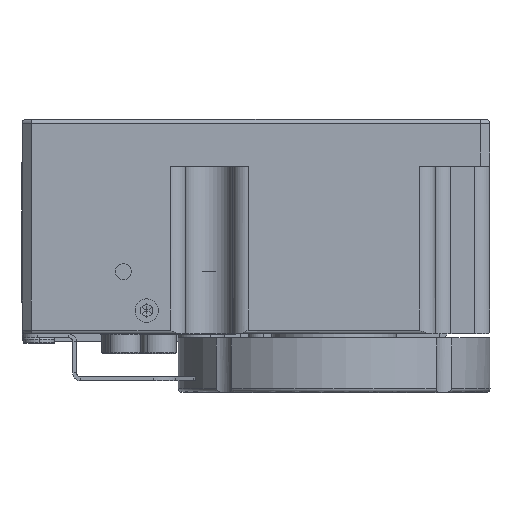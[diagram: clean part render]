
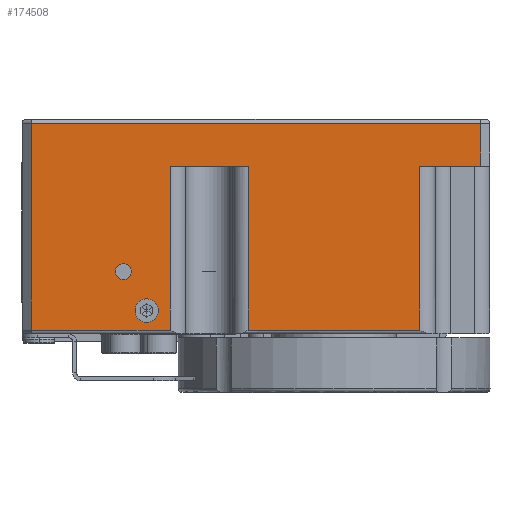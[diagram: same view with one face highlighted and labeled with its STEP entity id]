
A CAD part, left-side view. The second image highlights one B-rep face of the part: STEP entity #174508.
In plain terms, the highlighted planar face has unit normal (-1, 0, 0).
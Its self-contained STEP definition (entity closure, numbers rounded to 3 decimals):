
#3399 = VERTEX_POINT ( 'NONE', #144927 ) ;
#4964 = AXIS2_PLACEMENT_3D ( 'NONE', #27901, #54296, #39329 ) ;
#8734 = CARTESIAN_POINT ( 'NONE',  ( 36.077, -107.76, -40.056 ) ) ;
#8786 = VERTEX_POINT ( 'NONE', #117116 ) ;
#8812 = DIRECTION ( 'NONE',  ( 0., 0., 1. ) ) ;
#9082 = AXIS2_PLACEMENT_3D ( 'NONE', #65465, #107786, #94520 ) ;
#14168 = ORIENTED_EDGE ( 'NONE', *, *, #114349, .T. ) ;
#14399 = VECTOR ( 'NONE', #99959, 1000. ) ;
#17383 = ORIENTED_EDGE ( 'NONE', *, *, #58990, .F. ) ;
#17517 = CARTESIAN_POINT ( 'NONE',  ( 36.077, -106.56, -66.556 ) ) ;
#19493 = CARTESIAN_POINT ( 'NONE',  ( 36.077, -66.76, -66.556 ) ) ;
#19783 = DIRECTION ( 'NONE',  ( 0., 0., 1. ) ) ;
#23293 = ORIENTED_EDGE ( 'NONE', *, *, #30588, .F. ) ;
#23345 = CARTESIAN_POINT ( 'NONE',  ( 36.077, -98.76, -66.556 ) ) ;
#24260 = CARTESIAN_POINT ( 'NONE',  ( 36.077, -68.76, -45.556 ) ) ;
#24504 = VECTOR ( 'NONE', #37006, 1000. ) ;
#24661 = LINE ( 'NONE', #105684, #24504 ) ;
#24839 = CARTESIAN_POINT ( 'NONE',  ( 36.077, -48.96, -66.556 ) ) ;
#25301 = ORIENTED_EDGE ( 'NONE', *, *, #128068, .F. ) ;
#27020 = ORIENTED_EDGE ( 'NONE', *, *, #42833, .T. ) ;
#27145 = VERTEX_POINT ( 'NONE', #19493 ) ;
#27901 = CARTESIAN_POINT ( 'NONE',  ( 36.077, -63.76, -64.056 ) ) ;
#30588 = EDGE_CURVE ( 'NONE', #129301, #104111, #51982, .T. ) ;
#31824 = ORIENTED_EDGE ( 'NONE', *, *, #74678, .F. ) ;
#32621 = CARTESIAN_POINT ( 'NONE',  ( 36.077, -76.76, -45.556 ) ) ;
#33995 = CIRCLE ( 'NONE', #67600, 1.025 ) ;
#37006 = DIRECTION ( 'NONE',  ( 0., 0., -1. ) ) ;
#38038 = EDGE_CURVE ( 'NONE', #138267, #134312, #145015, .T. ) ;
#39329 = DIRECTION ( 'NONE',  ( 0., 0., 1. ) ) ;
#39699 = DIRECTION ( 'NONE',  ( 0., 0., 1. ) ) ;
#39964 = LINE ( 'NONE', #52317, #154958 ) ;
#42445 = EDGE_CURVE ( 'NONE', #148067, #126763, #92972, .T. ) ;
#42833 = EDGE_CURVE ( 'NONE', #50475, #98329, #39964, .T. ) ;
#43990 = CARTESIAN_POINT ( 'NONE',  ( 36.077, -60.76, -60.081 ) ) ;
#44041 = ORIENTED_EDGE ( 'NONE', *, *, #92355, .T. ) ;
#44304 = VERTEX_POINT ( 'NONE', #81746 ) ;
#44592 = LINE ( 'NONE', #85104, #105733 ) ;
#48896 = PLANE ( 'NONE',  #9082 ) ;
#49127 = ORIENTED_EDGE ( 'NONE', *, *, #162370, .T. ) ;
#50475 = VERTEX_POINT ( 'NONE', #115537 ) ;
#51784 = DIRECTION ( 'NONE',  ( 0., 0., 1. ) ) ;
#51982 = CIRCLE ( 'NONE', #119501, 1.025 ) ;
#52317 = CARTESIAN_POINT ( 'NONE',  ( 36.077, -106.56, -39.556 ) ) ;
#52926 = CARTESIAN_POINT ( 'NONE',  ( 36.077, -66.76, -39.556 ) ) ;
#54296 = DIRECTION ( 'NONE',  ( -1., 0., 0. ) ) ;
#56736 = ORIENTED_EDGE ( 'NONE', *, *, #86719, .T. ) ;
#58990 = EDGE_CURVE ( 'NONE', #3399, #119779, #72426, .T. ) ;
#59808 = ORIENTED_EDGE ( 'NONE', *, *, #38038, .F. ) ;
#60644 = VECTOR ( 'NONE', #69477, 1000. ) ;
#61881 = EDGE_LOOP ( 'NONE', ( #149388, #23293 ) ) ;
#61950 = EDGE_CURVE ( 'NONE', #104111, #129301, #33995, .T. ) ;
#65465 = CARTESIAN_POINT ( 'NONE',  ( 36.077, -107.76, -39.556 ) ) ;
#65792 = CARTESIAN_POINT ( 'NONE',  ( 36.077, -60.76, -59.056 ) ) ;
#67600 = AXIS2_PLACEMENT_3D ( 'NONE', #103463, #90182, #19783 ) ;
#69477 = DIRECTION ( 'NONE',  ( 0., -1., 0. ) ) ;
#72426 = CIRCLE ( 'NONE', #4964, 1.5 ) ;
#73870 = AXIS2_PLACEMENT_3D ( 'NONE', #114549, #141023, #8812 ) ;
#74678 = EDGE_CURVE ( 'NONE', #119779, #3399, #133022, .T. ) ;
#75909 = CARTESIAN_POINT ( 'NONE',  ( 36.077, -100.76, -45.556 ) ) ;
#76446 = VECTOR ( 'NONE', #157680, 1000. ) ;
#80382 = VECTOR ( 'NONE', #174089, 1000. ) ;
#81348 = DIRECTION ( 'NONE',  ( 0., 0., 1. ) ) ;
#81746 = CARTESIAN_POINT ( 'NONE',  ( 36.077, -48.96, -40.056 ) ) ;
#85104 = CARTESIAN_POINT ( 'NONE',  ( 36.077, -106.56, -66.556 ) ) ;
#86719 = EDGE_CURVE ( 'NONE', #138267, #8786, #101731, .T. ) ;
#90182 = DIRECTION ( 'NONE',  ( -1., 0., 0. ) ) ;
#92355 = EDGE_CURVE ( 'NONE', #44304, #122583, #24661, .T. ) ;
#92972 = LINE ( 'NONE', #136997, #132268 ) ;
#94520 = DIRECTION ( 'NONE',  ( 0., 0., -1. ) ) ;
#98329 = VERTEX_POINT ( 'NONE', #103826 ) ;
#99959 = DIRECTION ( 'NONE',  ( 0., 0., -1. ) ) ;
#101731 = LINE ( 'NONE', #116688, #14399 ) ;
#103463 = CARTESIAN_POINT ( 'NONE',  ( 36.077, -60.76, -59.056 ) ) ;
#103826 = CARTESIAN_POINT ( 'NONE',  ( 36.077, -106.56, -40.056 ) ) ;
#104111 = VERTEX_POINT ( 'NONE', #148031 ) ;
#104158 = EDGE_CURVE ( 'NONE', #122583, #27145, #108314, .T. ) ;
#104163 = LINE ( 'NONE', #75909, #124252 ) ;
#105684 = CARTESIAN_POINT ( 'NONE',  ( 36.077, -48.96, -39.556 ) ) ;
#105733 = VECTOR ( 'NONE', #138810, 1000. ) ;
#107786 = DIRECTION ( 'NONE',  ( 1., 0., 0. ) ) ;
#107908 = CARTESIAN_POINT ( 'NONE',  ( 36.077, -98.76, -45.556 ) ) ;
#108314 = LINE ( 'NONE', #17517, #60644 ) ;
#110518 = CARTESIAN_POINT ( 'NONE',  ( 36.077, -63.76, -65.556 ) ) ;
#110862 = CARTESIAN_POINT ( 'NONE',  ( 36.077, -66.76, -45.556 ) ) ;
#114349 = EDGE_CURVE ( 'NONE', #27145, #134312, #137410, .T. ) ;
#114549 = CARTESIAN_POINT ( 'NONE',  ( 36.077, -63.76, -64.056 ) ) ;
#115537 = CARTESIAN_POINT ( 'NONE',  ( 36.077, -106.56, -45.556 ) ) ;
#116688 = CARTESIAN_POINT ( 'NONE',  ( 36.077, -76.76, -39.556 ) ) ;
#117116 = CARTESIAN_POINT ( 'NONE',  ( 36.077, -76.76, -66.556 ) ) ;
#119501 = AXIS2_PLACEMENT_3D ( 'NONE', #65792, #172544, #51784 ) ;
#119779 = VERTEX_POINT ( 'NONE', #110518 ) ;
#122064 = ORIENTED_EDGE ( 'NONE', *, *, #130279, .T. ) ;
#122100 = DIRECTION ( 'NONE',  ( 0., 0., 1. ) ) ;
#122583 = VERTEX_POINT ( 'NONE', #24839 ) ;
#124252 = VECTOR ( 'NONE', #127113, 1000. ) ;
#126763 = VERTEX_POINT ( 'NONE', #107908 ) ;
#127113 = DIRECTION ( 'NONE',  ( 0., 1., 0. ) ) ;
#127254 = FACE_OUTER_BOUND ( 'NONE', #135776, .T. ) ;
#128068 = EDGE_CURVE ( 'NONE', #50475, #126763, #104163, .T. ) ;
#129301 = VERTEX_POINT ( 'NONE', #43990 ) ;
#130279 = EDGE_CURVE ( 'NONE', #8786, #148067, #44592, .T. ) ;
#130692 = VECTOR ( 'NONE', #39699, 1000. ) ;
#132268 = VECTOR ( 'NONE', #122100, 1000. ) ;
#132916 = EDGE_LOOP ( 'NONE', ( #17383, #31824 ) ) ;
#133022 = CIRCLE ( 'NONE', #73870, 1.5 ) ;
#134312 = VERTEX_POINT ( 'NONE', #110862 ) ;
#135776 = EDGE_LOOP ( 'NONE', ( #173969, #14168, #59808, #56736, #122064, #144678, #25301, #27020, #49127, #44041 ) ) ;
#136997 = CARTESIAN_POINT ( 'NONE',  ( 36.077, -98.76, -39.556 ) ) ;
#137410 = LINE ( 'NONE', #52926, #130692 ) ;
#138267 = VERTEX_POINT ( 'NONE', #32621 ) ;
#138810 = DIRECTION ( 'NONE',  ( 0., -1., 0. ) ) ;
#141023 = DIRECTION ( 'NONE',  ( -1., 0., 0. ) ) ;
#141382 = FACE_BOUND ( 'NONE', #132916, .T. ) ;
#144678 = ORIENTED_EDGE ( 'NONE', *, *, #42445, .T. ) ;
#144927 = CARTESIAN_POINT ( 'NONE',  ( 36.077, -63.76, -62.556 ) ) ;
#145015 = LINE ( 'NONE', #24260, #80382 ) ;
#148031 = CARTESIAN_POINT ( 'NONE',  ( 36.077, -60.76, -58.031 ) ) ;
#148067 = VERTEX_POINT ( 'NONE', #23345 ) ;
#149388 = ORIENTED_EDGE ( 'NONE', *, *, #61950, .F. ) ;
#154226 = LINE ( 'NONE', #8734, #76446 ) ;
#154958 = VECTOR ( 'NONE', #81348, 1000. ) ;
#157680 = DIRECTION ( 'NONE',  ( 0., 1., 0. ) ) ;
#162370 = EDGE_CURVE ( 'NONE', #98329, #44304, #154226, .T. ) ;
#170467 = FACE_BOUND ( 'NONE', #61881, .T. ) ;
#172544 = DIRECTION ( 'NONE',  ( -1., 0., 0. ) ) ;
#173969 = ORIENTED_EDGE ( 'NONE', *, *, #104158, .T. ) ;
#174089 = DIRECTION ( 'NONE',  ( 0., 1., 0. ) ) ;
#174508 = ADVANCED_FACE ( 'NONE', ( #170467, #141382, #127254 ), #48896, .F. ) ;
